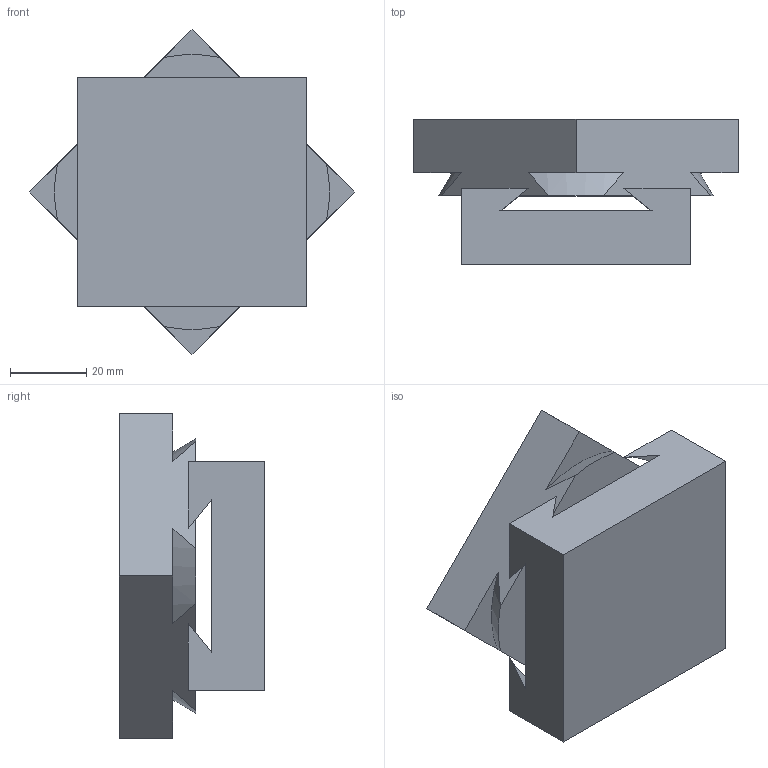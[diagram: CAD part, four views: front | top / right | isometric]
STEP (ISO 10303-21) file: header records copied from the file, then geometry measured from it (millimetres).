
FILE_DESCRIPTION (( 'STEP AP214' ), '1' );
FILE_NAME ('Baugruppe45.STEP', '2008-01-18T06:31:07', ( '' ), ( '' ), 'SwSTEP 2.0', 'SolidWorks 2005235', '' );
FILE_SCHEMA (( 'AUTOMOTIVE_DESIGN' ));
Length unit declared in the file: millimetre
Products named in the file (3): Teil5; Teil4; Baugruppe45
Assembly tree (2 placements, depth 2):
  Baugruppe45
    Teil4
    Teil5
Bounding box: 84.85 x 38 x 84.85 mm (x, y, z)
Volume: 122400 mm3; surface area: 24185.4 mm2
Topology: 2 solids, 2 shells, 28 faces, 72 edges, 48 vertices
Faces by surface type: plane 20, cone 8
Entity records: 1004 total; most frequent: CARTESIAN_POINT 249, ORIENTED_EDGE 144, DIRECTION 138, EDGE_CURVE 72, AXIS2_PLACEMENT_3D 49, VERTEX_POINT 48, VECTOR 40, LINE 40
